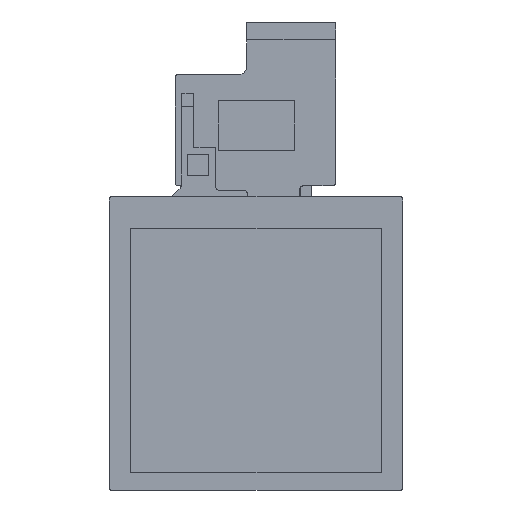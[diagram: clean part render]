
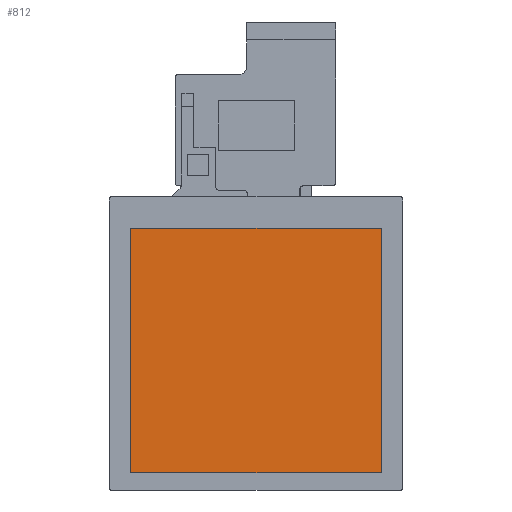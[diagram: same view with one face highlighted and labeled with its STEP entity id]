
A CAD part, front view. The second image highlights one B-rep face of the part: STEP entity #812.
In plain terms, the highlighted planar face has unit normal (0, -1, 0).
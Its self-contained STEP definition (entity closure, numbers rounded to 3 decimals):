
#812 = ADVANCED_FACE ( 'NONE', ( #12515 ), #12600, .F. ) ;
#1211 = CARTESIAN_POINT ( 'NONE',  ( 77.628, -1., -8.612 ) ) ;
#1755 = ORIENTED_EDGE ( 'NONE', *, *, #12747, .T. ) ;
#2432 = VECTOR ( 'NONE', #15101, 1000. ) ;
#2622 = CARTESIAN_POINT ( 'NONE',  ( 77.628, -1., -78.788 ) ) ;
#3563 = LINE ( 'NONE', #6753, #11289 ) ;
#3652 = DIRECTION ( 'NONE',  ( -1., 0., 0. ) ) ;
#6540 = LINE ( 'NONE', #12898, #14680 ) ;
#6553 = CARTESIAN_POINT ( 'NONE',  ( 5.772, -1., -8.612 ) ) ;
#6753 = CARTESIAN_POINT ( 'NONE',  ( 5.772, -1., -78.788 ) ) ;
#6802 = EDGE_CURVE ( 'NONE', #13042, #7900, #14703, .T. ) ;
#7900 = VERTEX_POINT ( 'NONE', #1211 ) ;
#8273 = DIRECTION ( 'NONE',  ( 0., 0., -1. ) ) ;
#8782 = DIRECTION ( 'NONE',  ( 0., 0., 1. ) ) ;
#10453 = EDGE_LOOP ( 'NONE', ( #17084, #17769, #11607, #1755 ) ) ;
#10906 = CARTESIAN_POINT ( 'NONE',  ( 0., -1., 0. ) ) ;
#10933 = VERTEX_POINT ( 'NONE', #17380 ) ;
#11289 = VECTOR ( 'NONE', #8273, 1000. ) ;
#11607 = ORIENTED_EDGE ( 'NONE', *, *, #15572, .T. ) ;
#11794 = VECTOR ( 'NONE', #14574, 1000. ) ;
#12255 = AXIS2_PLACEMENT_3D ( 'NONE', #10906, #13517, #8782 ) ;
#12282 = LINE ( 'NONE', #13109, #11794 ) ;
#12515 = FACE_OUTER_BOUND ( 'NONE', #10453, .T. ) ;
#12600 = PLANE ( 'NONE',  #12255 ) ;
#12747 = EDGE_CURVE ( 'NONE', #10933, #13042, #12282, .T. ) ;
#12898 = CARTESIAN_POINT ( 'NONE',  ( 5.772, -1., -8.612 ) ) ;
#13042 = VERTEX_POINT ( 'NONE', #2622 ) ;
#13109 = CARTESIAN_POINT ( 'NONE',  ( 77.628, -1., -78.788 ) ) ;
#13364 = VERTEX_POINT ( 'NONE', #6553 ) ;
#13517 = DIRECTION ( 'NONE',  ( 0., 1., 0. ) ) ;
#14574 = DIRECTION ( 'NONE',  ( 1., 0., 0. ) ) ;
#14680 = VECTOR ( 'NONE', #3652, 1000. ) ;
#14703 = LINE ( 'NONE', #16645, #2432 ) ;
#15101 = DIRECTION ( 'NONE',  ( 0., 0., 1. ) ) ;
#15338 = EDGE_CURVE ( 'NONE', #7900, #13364, #6540, .T. ) ;
#15572 = EDGE_CURVE ( 'NONE', #13364, #10933, #3563, .T. ) ;
#16645 = CARTESIAN_POINT ( 'NONE',  ( 77.628, -1., -8.612 ) ) ;
#17084 = ORIENTED_EDGE ( 'NONE', *, *, #6802, .T. ) ;
#17380 = CARTESIAN_POINT ( 'NONE',  ( 5.772, -1., -78.788 ) ) ;
#17769 = ORIENTED_EDGE ( 'NONE', *, *, #15338, .T. ) ;
